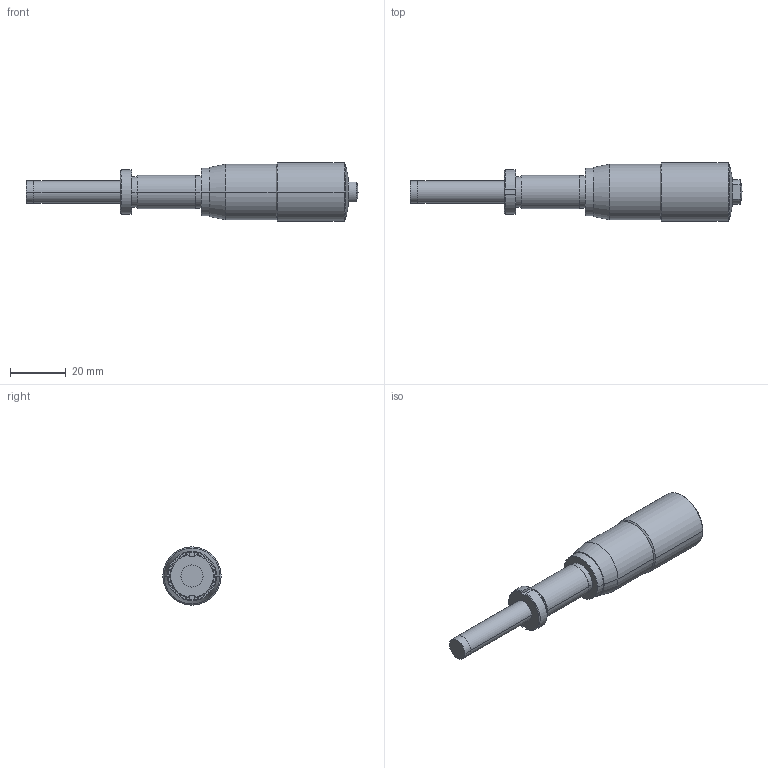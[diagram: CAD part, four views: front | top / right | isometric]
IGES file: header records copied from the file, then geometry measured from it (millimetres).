
Start section: Elysium IGES Interface
Global section: file name: 133HL:\商品設計部\部内\R_drv\99_受け渡しBOX\大竹\⇒賀藤さん\マイクロメータヘッド　CADデータ提供依頼\★3D_IGS完了\151-228-10_MHH2-25TA.igs; native system: Creo Elements/Direct Modeling 18.1H  24-Oct-2015; preprocessor: Creo Element/Direct IGES_3D V2.2; author: Unknown; organization: Unknown; date: 20220927.095052; units: millimetre
Bounding box: 119.5 x 21 x 21 mm (x, y, z)
Volume: 22319.4 mm3; surface area: 6175.7 mm2
Topology: 1 solids, 1 shells, 50 faces, 114 edges, 71 vertices
Faces by surface type: bspline 50
